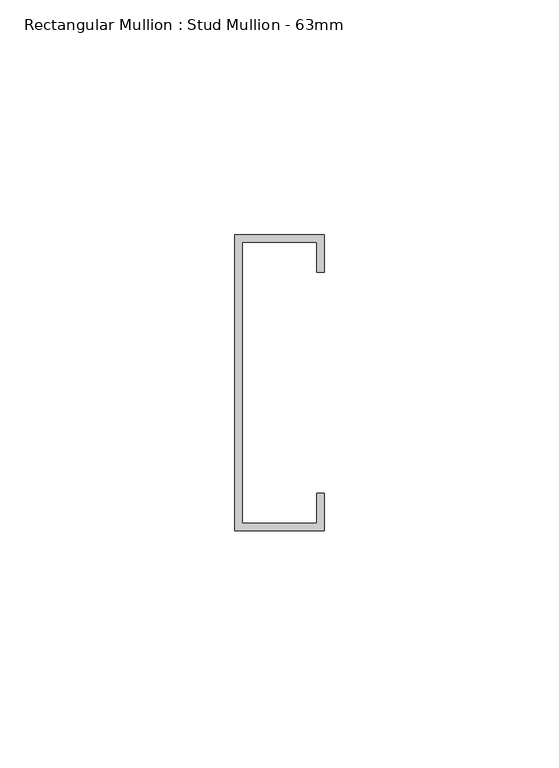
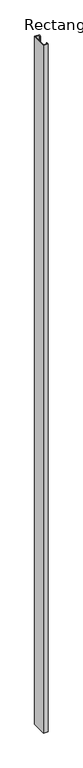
"""IFC4 building model written with IfcOpenShell, lengths in millimetres: member geometry, Rectangular Mullion : Stud Mullion - 63mm."""

import ifcopenshell
import ifcopenshell.guid

model = None  # the IFC model being written
_history = None  # IfcOwnerHistory: only IFC2X3 demands one
_inside = {}  # id of a spatial element -> (the spatial element, [elements in it])
_under = {}  # id of a project, library or spatial element -> (it, [spatial elements below it])
_declared = {}  # id of a project -> (the project, [libraries it declares])
_typed = {}  # id of a type object -> (the type object, [elements of that type])
_made_of = {}  # id of a material, layer set ... -> (it, [elements and type objects made of it])


def new_model(schema):
    """Start an empty IFC model of exactly this schema.

    Asked for "IFC4X3", IfcOpenShell would pick the latest addendum, in which some entities
    have other attributes; the version numbers below select the first issue.
    IFC2X3 requires an IfcOwnerHistory on every rooted entity: one is made here for all.
    """
    global model, _history
    if schema == "IFC4X3":
        model = ifcopenshell.file(schema_version=(4, 3, 0, 0))
    else:
        model = ifcopenshell.file(schema=schema)
    _inside.clear()
    _under.clear()
    _declared.clear()
    _typed.clear()
    _made_of.clear()
    _history = None
    if model.schema == "IFC2X3":
        org = make("IfcOrganization", Name="unknown")
        user = make(
            "IfcPersonAndOrganization",
            ThePerson=make("IfcPerson", FamilyName="unknown"),
            TheOrganization=org,
        )
        app = make(
            "IfcApplication",
            ApplicationDeveloper=org,
            Version="unknown",
            ApplicationFullName="unknown",
            ApplicationIdentifier="unknown",
        )
        _history = make(
            "IfcOwnerHistory",
            OwningUser=user,
            OwningApplication=app,
            ChangeAction="ADDED",
            CreationDate=0,
        )
    return model


def make(cls, **values):
    """One entity of the class cls with the attributes given. An attribute that is None is left unset."""
    return model.create_entity(
        cls, **{name: value for name, value in values.items() if value is not None}
    )


def rooted(cls, **values):
    """An entity with a GlobalId (a new one), such as an element, a storey or a relation."""
    return make(cls, GlobalId=ifcopenshell.guid.new(), OwnerHistory=_history, **values)


def si_unit(unit_type, name, prefix=None):
    """IfcSIUnit, for example si_unit("LENGTHUNIT", "METRE", prefix="MILLI")."""
    return make("IfcSIUnit", UnitType=unit_type, Prefix=prefix, Name=name)


def assignment(units):
    """IfcUnitAssignment: the units of a project."""
    return None if units is None else make("IfcUnitAssignment", Units=units)


def point(xyz):
    """IfcCartesianPoint."""
    return None if xyz is None else make("IfcCartesianPoint", Coordinates=xyz)


def direction(xyz):
    """IfcDirection."""
    return None if xyz is None else make("IfcDirection", DirectionRatios=xyz)


def frame(location, z_axis=None, x_axis=None):
    """IfcAxis2Placement3D, a coordinate frame: its origin and axes. An axis left out is left unset."""
    return make(
        "IfcAxis2Placement3D",
        Location=point(location),
        Axis=direction(z_axis),
        RefDirection=direction(x_axis),
    )


def origin():
    """The frame at (0, 0, 0) with its axes left unset."""
    return frame((0.0, 0.0, 0.0))


def place(relative_to, where):
    """IfcLocalPlacement: puts the frame where relative to a parent placement (None: the world)."""
    return make(
        "IfcLocalPlacement", PlacementRelTo=relative_to, RelativePlacement=where
    )


def context(
    kind, dimensions, precision=None, world=None, true_north=None, identifier=None
):
    """IfcGeometricRepresentationContext, for example the 3D "Model" context."""
    return make(
        "IfcGeometricRepresentationContext",
        ContextIdentifier=identifier,
        ContextType=kind,
        CoordinateSpaceDimension=dimensions,
        Precision=precision,
        WorldCoordinateSystem=world,
        TrueNorth=true_north,
    )


def project(units=None, contexts=None):
    """IfcProject with its units and contexts."""
    return rooted(
        "IfcProject",
        Name="project",
        RepresentationContexts=contexts,
        UnitsInContext=assignment(units),
    )


def spatial(cls, under=None, at=None, **own):
    """A site, building, storey or space (cls), placed at a placement, below another one or the project."""
    s = rooted(cls, ObjectPlacement=at, **own)
    if under is not None:
        _under.setdefault(under.id(), (under, []))[1].append(s)
    return s


def polyline(points):
    """IfcPolyline through the points."""
    return make("IfcPolyline", Points=[point(p) for p in points])


def outline(outer, holes=None, kind="AREA"):
    """IfcArbitraryClosedProfileDef: a profile drawn as a closed curve; with holes, ...WithVoids."""
    if holes is None:
        return make("IfcArbitraryClosedProfileDef", ProfileType=kind, OuterCurve=outer)
    return make(
        "IfcArbitraryProfileDefWithVoids",
        ProfileType=kind,
        OuterCurve=outer,
        InnerCurves=holes,
    )


def extrude(swept, where, along, depth):
    """IfcExtrudedAreaSolid: the profile swept, set in the frame where, extruded along a direction by depth."""
    return make(
        "IfcExtrudedAreaSolid",
        SweptArea=swept,
        Position=where,
        ExtrudedDirection=direction(along),
        Depth=depth,
    )


def shape(context_of_items, identifier, shape_type, items):
    """IfcShapeRepresentation: the items that make up one representation, for example the "Body"."""
    return make(
        "IfcShapeRepresentation",
        ContextOfItems=context_of_items,
        RepresentationIdentifier=identifier,
        RepresentationType=shape_type,
        Items=items,
    )


def source(mapping_origin, context_of_items, identifier, shape_type, items):
    """IfcRepresentationMap: a shape defined once, which mapped items show again and again."""
    return make(
        "IfcRepresentationMap",
        MappingOrigin=mapping_origin,
        MappedRepresentation=shape(context_of_items, identifier, shape_type, items),
    )


def transform(
    local_origin,
    x_axis=None,
    y_axis=None,
    z_axis=None,
    scale=None,
    scale2=None,
    scale3=None,
    uniform=True,
):
    """IfcCartesianTransformationOperator3D, or its non-uniform kind. x_axis, y_axis, z_axis: its Axis1, 2, 3."""
    if uniform:
        return make(
            "IfcCartesianTransformationOperator3D",
            Axis1=direction(x_axis),
            Axis2=direction(y_axis),
            LocalOrigin=point(local_origin),
            Scale=scale,
            Axis3=direction(z_axis),
        )
    return make(
        "IfcCartesianTransformationOperator3DnonUniform",
        Axis1=direction(x_axis),
        Axis2=direction(y_axis),
        LocalOrigin=point(local_origin),
        Scale=scale,
        Axis3=direction(z_axis),
        Scale2=scale2,
        Scale3=scale3,
    )


def mapped(mapping_source, mapping_target):
    """IfcMappedItem: shows the shape of a source again, moved by a transform."""
    return make(
        "IfcMappedItem", MappingSource=mapping_source, MappingTarget=mapping_target
    )


def made_of(thing, what):
    """Note that an element or type object is made of a material, layer set ...; save() writes the relation."""
    if what is not None:
        _made_of.setdefault(what.id(), (what, []))[1].append(thing)
    return thing


def element(
    cls,
    number,
    at=None,
    inside=None,
    cuts=None,
    type_object=None,
    material=None,
    context=None,
    identifier="Body",
    shape_type=None,
    held_by="IfcProductDefinitionShape",
    body=None,
    shapes=None,
    **own,
):
    """One element of the class cls, such as IfcWall. Its Tag is "e" and its number.

    at: its placement. inside: the storey or other place that contains it. cuts: it is an
    opening in that element (IfcRelVoidsElement). A single representation is given by context,
    identifier, shape_type and body (its items); several are given by shapes. held_by: the class
    of the entity that holds the representations. save() writes the other relations.
    """
    e = rooted(cls, Tag="e%d" % number, ObjectPlacement=at, **own)
    if body is not None:
        shapes = [shape(context, identifier, shape_type, body)]
    if shapes is not None:
        e.Representation = make(held_by, Representations=shapes)
    if inside is not None:
        _inside.setdefault(inside.id(), (inside, []))[1].append(e)
    if cuts is not None:
        rooted(
            "IfcRelVoidsElement", RelatingBuildingElement=cuts, RelatedOpeningElement=e
        )
    if type_object is not None:
        _typed.setdefault(type_object.id(), (type_object, []))[1].append(e)
    return made_of(e, material)


def aggregate(whole, parts):
    """IfcRelAggregates: a whole, such as a stair, and the parts it consists of."""
    return rooted("IfcRelAggregates", RelatingObject=whole, RelatedObjects=parts)


def save(model, path):
    """Write the relations noted so far, then the file.

    IfcRelAggregates (storeys below a building ...), IfcRelContainedInSpatialStructure (elements
    in a storey), IfcRelDefinesByType, IfcRelAssociatesMaterial and IfcRelDeclares: one each for
    every whole, place, type object, material and project.
    """
    for whole, parts in _under.values():
        aggregate(whole, parts)
    for where, things in _inside.values():
        rooted(
            "IfcRelContainedInSpatialStructure",
            RelatedElements=things,
            RelatingStructure=where,
        )
    for kind, things in _typed.values():
        rooted("IfcRelDefinesByType", RelatedObjects=things, RelatingType=kind)
    for what, things in _made_of.values():
        rooted("IfcRelAssociatesMaterial", RelatedObjects=things, RelatingMaterial=what)
    for by, libraries in _declared.values():
        rooted("IfcRelDeclares", RelatingContext=by, RelatedDefinitions=libraries)
    model.write(path)


def rectangular_mullion_stud_mullion_63mm_c22ba0a2(model_context):
    return source(origin(), model_context, "Body", "SweptSolid", [
        extrude(outline(polyline([(0.0, 23.5), (-1.6, 23.5), (-1.6, 29.9), (-17.4, 29.9), (-17.4, -29.9), (-1.6, -29.9), (-1.6, -23.5), (0.0, -23.5), (0.0, -31.5), (-19.0, -31.5), (-19.0, 31.5), (0.0, 31.5), (0.0, 23.5)])), frame((0.0, 0.0, -3000.0), z_axis=(0.0, 0.0, 1.0), x_axis=(1.0, 0.0, 0.0)), (0.0, 0.0, 1.0), 3000.0),
    ])


if __name__ == "__main__":
    model = new_model("IFC4")
    model_context = context("Model", 3, world=origin())
    ifc_project = project(units=[si_unit("LENGTHUNIT", "METRE", prefix="MILLI")], contexts=[model_context])
    site = spatial("IfcSite", under=ifc_project)
    building = spatial("IfcBuilding", under=site)
    placement = place(None, origin())
    rectangular_mullion_stud_mullion_63mm_shape = rectangular_mullion_stud_mullion_63mm_c22ba0a2(model_context)
    element("IfcMember", 1, ObjectType="Rectangular Mullion : Stud Mullion - 63mm", at=placement, inside=building, context=model_context, shape_type="MappedRepresentation", body=[
        mapped(rectangular_mullion_stud_mullion_63mm_shape, transform((0.0, 0.0, 0.0), x_axis=(1.0, 0.0, 0.0), y_axis=(0.0, 1.0, 0.0), z_axis=(0.0, 0.0, 1.0))),
    ])
    save(model, "model.ifc")
